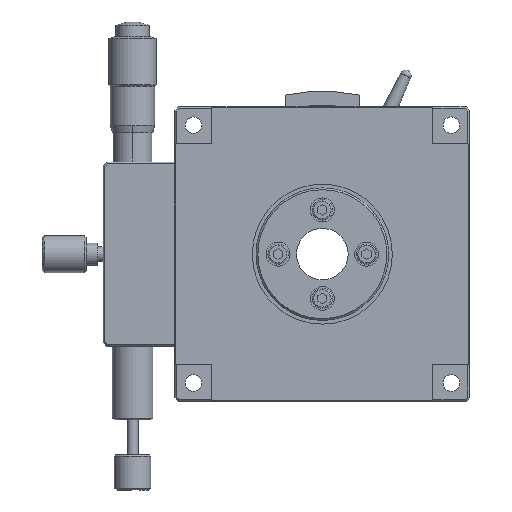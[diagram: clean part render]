
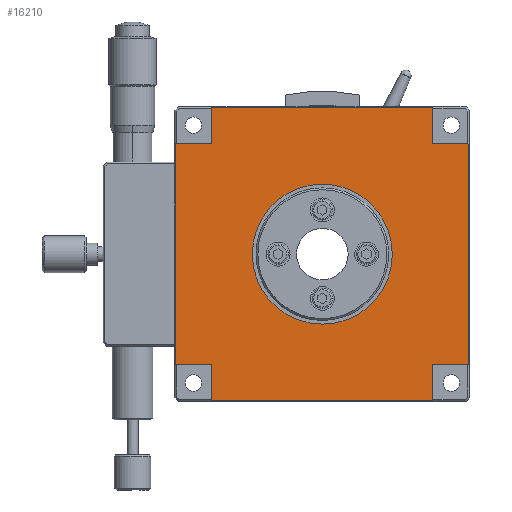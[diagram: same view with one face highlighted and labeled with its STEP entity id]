
A CAD part, front view. The second image highlights one B-rep face of the part: STEP entity #16210.
In plain terms, the highlighted planar face has unit normal (0, -1, 0).
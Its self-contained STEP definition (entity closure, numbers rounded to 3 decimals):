
#80 = CIRCLE ( 'NONE', #19383, 19. ) ;
#93 = ORIENTED_EDGE ( 'NONE', *, *, #14938, .T. ) ;
#172 = VERTEX_POINT ( 'NONE', #2369 ) ;
#541 = CARTESIAN_POINT ( 'NONE',  ( -104.119, 9.186, 60.017 ) ) ;
#594 = ORIENTED_EDGE ( 'NONE', *, *, #10753, .T. ) ;
#882 = VERTEX_POINT ( 'NONE', #7043 ) ;
#957 = VERTEX_POINT ( 'NONE', #15664 ) ;
#1305 = EDGE_CURVE ( 'NONE', #3083, #5632, #10530, .T. ) ;
#1931 = LINE ( 'NONE', #4574, #13923 ) ;
#2129 = ORIENTED_EDGE ( 'NONE', *, *, #13077, .T. ) ;
#2231 = VECTOR ( 'NONE', #26284, 1000. ) ;
#2369 = CARTESIAN_POINT ( 'NONE',  ( -74.119, 9.186, 11.017 ) ) ;
#2413 = VECTOR ( 'NONE', #7898, 1000. ) ;
#2788 = CARTESIAN_POINT ( 'NONE',  ( -44.119, 9.186, 60.017 ) ) ;
#2827 = CIRCLE ( 'NONE', #11218, 19. ) ;
#2949 = CARTESIAN_POINT ( 'NONE',  ( -104.119, 9.186, 60.017 ) ) ;
#2955 = CARTESIAN_POINT ( 'NONE',  ( -104.119, 9.186, 60.017 ) ) ;
#3074 = ORIENTED_EDGE ( 'NONE', *, *, #25325, .T. ) ;
#3083 = VERTEX_POINT ( 'NONE', #20255 ) ;
#3909 = VECTOR ( 'NONE', #8447, 1000. ) ;
#4336 = VERTEX_POINT ( 'NONE', #2788 ) ;
#4502 = ORIENTED_EDGE ( 'NONE', *, *, #26859, .T. ) ;
#4551 = ORIENTED_EDGE ( 'NONE', *, *, #16462, .T. ) ;
#4574 = CARTESIAN_POINT ( 'NONE',  ( -104.119, 9.186, 60.017 ) ) ;
#4586 = VECTOR ( 'NONE', #23694, 1000. ) ;
#4736 = ORIENTED_EDGE ( 'NONE', *, *, #15796, .T. ) ;
#5031 = LINE ( 'NONE', #10514, #2413 ) ;
#5342 = DIRECTION ( 'NONE',  ( 0., 1., 0. ) ) ;
#5632 = VERTEX_POINT ( 'NONE', #14438 ) ;
#5721 = DIRECTION ( 'NONE',  ( 0., 0., 1. ) ) ;
#5724 = DIRECTION ( 'NONE',  ( -1., 0., 0. ) ) ;
#5999 = LINE ( 'NONE', #28153, #9726 ) ;
#6068 = EDGE_LOOP ( 'NONE', ( #15095, #93 ) ) ;
#6392 = VECTOR ( 'NONE', #27286, 1000. ) ;
#6606 = CARTESIAN_POINT ( 'NONE',  ( -113.919, 9.186, 60.017 ) ) ;
#6881 = CARTESIAN_POINT ( 'NONE',  ( -104.119, 9.186, 60.017 ) ) ;
#7043 = CARTESIAN_POINT ( 'NONE',  ( -34.319, 9.186, 0.017 ) ) ;
#7208 = ORIENTED_EDGE ( 'NONE', *, *, #14567, .T. ) ;
#7382 = CARTESIAN_POINT ( 'NONE',  ( -34.319, 9.186, 60.017 ) ) ;
#7898 = DIRECTION ( 'NONE',  ( -1., 0., 0. ) ) ;
#7924 = FACE_OUTER_BOUND ( 'NONE', #27328, .T. ) ;
#8247 = CARTESIAN_POINT ( 'NONE',  ( -104.119, 9.186, 69.817 ) ) ;
#8447 = DIRECTION ( 'NONE',  ( -1., 0., 0. ) ) ;
#8940 = CARTESIAN_POINT ( 'NONE',  ( -113.919, 9.186, 0.017 ) ) ;
#9726 = VECTOR ( 'NONE', #13707, 1000. ) ;
#9858 = CARTESIAN_POINT ( 'NONE',  ( -104.119, 9.186, -9.783 ) ) ;
#10127 = AXIS2_PLACEMENT_3D ( 'NONE', #2949, #12453, #19855 ) ;
#10235 = ORIENTED_EDGE ( 'NONE', *, *, #22239, .T. ) ;
#10495 = VERTEX_POINT ( 'NONE', #23579 ) ;
#10514 = CARTESIAN_POINT ( 'NONE',  ( -104.119, 9.186, 60.017 ) ) ;
#10530 = LINE ( 'NONE', #8247, #11282 ) ;
#10667 = VECTOR ( 'NONE', #26586, 1000. ) ;
#10753 = EDGE_CURVE ( 'NONE', #23057, #4336, #5031, .T. ) ;
#10759 = ORIENTED_EDGE ( 'NONE', *, *, #25481, .T. ) ;
#11203 = ORIENTED_EDGE ( 'NONE', *, *, #1305, .T. ) ;
#11218 = AXIS2_PLACEMENT_3D ( 'NONE', #11717, #11528, #25830 ) ;
#11282 = VECTOR ( 'NONE', #5724, 1000. ) ;
#11528 = DIRECTION ( 'NONE',  ( 0., 1., 0. ) ) ;
#11575 = VERTEX_POINT ( 'NONE', #26808 ) ;
#11687 = ORIENTED_EDGE ( 'NONE', *, *, #23990, .T. ) ;
#11717 = CARTESIAN_POINT ( 'NONE',  ( -74.119, 9.186, 30.017 ) ) ;
#12453 = DIRECTION ( 'NONE',  ( 0., -1., 0. ) ) ;
#13077 = EDGE_CURVE ( 'NONE', #5632, #22084, #16137, .T. ) ;
#13707 = DIRECTION ( 'NONE',  ( 0., 0., 1. ) ) ;
#13790 = VERTEX_POINT ( 'NONE', #31059 ) ;
#13923 = VECTOR ( 'NONE', #31153, 1000. ) ;
#13972 = EDGE_CURVE ( 'NONE', #22084, #957, #23069, .T. ) ;
#14438 = CARTESIAN_POINT ( 'NONE',  ( -104.119, 9.186, 69.817 ) ) ;
#14567 = EDGE_CURVE ( 'NONE', #11575, #10495, #21555, .T. ) ;
#14938 = EDGE_CURVE ( 'NONE', #172, #13790, #80, .T. ) ;
#14997 = CARTESIAN_POINT ( 'NONE',  ( -104.119, 9.186, -9.783 ) ) ;
#15095 = ORIENTED_EDGE ( 'NONE', *, *, #19641, .T. ) ;
#15111 = VECTOR ( 'NONE', #5721, 1000. ) ;
#15168 = CARTESIAN_POINT ( 'NONE',  ( -104.119, 9.186, 0.017 ) ) ;
#15664 = CARTESIAN_POINT ( 'NONE',  ( -113.919, 9.186, 60.017 ) ) ;
#15796 = EDGE_CURVE ( 'NONE', #25814, #26053, #1931, .T. ) ;
#16137 = LINE ( 'NONE', #2955, #21743 ) ;
#16210 = ADVANCED_FACE ( 'NONE', ( #7924, #18058 ), #29394, .T. ) ;
#16462 = EDGE_CURVE ( 'NONE', #10495, #882, #31203, .T. ) ;
#17319 = LINE ( 'NONE', #6606, #4586 ) ;
#17524 = DIRECTION ( 'NONE',  ( 0., 0., 1. ) ) ;
#18058 = FACE_BOUND ( 'NONE', #6068, .T. ) ;
#18935 = CARTESIAN_POINT ( 'NONE',  ( -104.119, 9.186, 0.017 ) ) ;
#19383 = AXIS2_PLACEMENT_3D ( 'NONE', #22265, #5342, #17524 ) ;
#19641 = EDGE_CURVE ( 'NONE', #13790, #172, #2827, .T. ) ;
#19738 = DIRECTION ( 'NONE',  ( 0., 0., -1. ) ) ;
#19855 = DIRECTION ( 'NONE',  ( 0., 0., -1. ) ) ;
#20255 = CARTESIAN_POINT ( 'NONE',  ( -44.119, 9.186, 69.817 ) ) ;
#21420 = LINE ( 'NONE', #15168, #6392 ) ;
#21555 = LINE ( 'NONE', #29659, #15111 ) ;
#21743 = VECTOR ( 'NONE', #19738, 1000. ) ;
#21793 = VECTOR ( 'NONE', #27527, 1000. ) ;
#22084 = VERTEX_POINT ( 'NONE', #6881 ) ;
#22239 = EDGE_CURVE ( 'NONE', #26053, #11575, #26449, .T. ) ;
#22265 = CARTESIAN_POINT ( 'NONE',  ( -74.119, 9.186, 30.017 ) ) ;
#23057 = VERTEX_POINT ( 'NONE', #7382 ) ;
#23069 = LINE ( 'NONE', #541, #3909 ) ;
#23579 = CARTESIAN_POINT ( 'NONE',  ( -44.119, 9.186, 0.017 ) ) ;
#23694 = DIRECTION ( 'NONE',  ( 0., 0., -1. ) ) ;
#23990 = EDGE_CURVE ( 'NONE', #957, #24837, #17319, .T. ) ;
#24837 = VERTEX_POINT ( 'NONE', #8940 ) ;
#25325 = EDGE_CURVE ( 'NONE', #24837, #25814, #21420, .T. ) ;
#25481 = EDGE_CURVE ( 'NONE', #882, #23057, #28209, .T. ) ;
#25814 = VERTEX_POINT ( 'NONE', #18935 ) ;
#25830 = DIRECTION ( 'NONE',  ( 0., 0., 1. ) ) ;
#26053 = VERTEX_POINT ( 'NONE', #14997 ) ;
#26284 = DIRECTION ( 'NONE',  ( 0., 0., 1. ) ) ;
#26449 = LINE ( 'NONE', #9858, #10667 ) ;
#26586 = DIRECTION ( 'NONE',  ( 1., 0., 0. ) ) ;
#26808 = CARTESIAN_POINT ( 'NONE',  ( -44.119, 9.186, -9.783 ) ) ;
#26859 = EDGE_CURVE ( 'NONE', #4336, #3083, #5999, .T. ) ;
#27286 = DIRECTION ( 'NONE',  ( 1., 0., 0. ) ) ;
#27328 = EDGE_LOOP ( 'NONE', ( #11203, #2129, #30664, #11687, #3074, #4736, #10235, #7208, #4551, #10759, #594, #4502 ) ) ;
#27527 = DIRECTION ( 'NONE',  ( 1., 0., 0. ) ) ;
#28153 = CARTESIAN_POINT ( 'NONE',  ( -44.119, 9.186, 60.017 ) ) ;
#28209 = LINE ( 'NONE', #28516, #2231 ) ;
#28516 = CARTESIAN_POINT ( 'NONE',  ( -34.319, 9.186, 60.017 ) ) ;
#29394 = PLANE ( 'NONE',  #10127 ) ;
#29659 = CARTESIAN_POINT ( 'NONE',  ( -44.119, 9.186, 60.017 ) ) ;
#30060 = CARTESIAN_POINT ( 'NONE',  ( -104.119, 9.186, 0.017 ) ) ;
#30664 = ORIENTED_EDGE ( 'NONE', *, *, #13972, .T. ) ;
#31059 = CARTESIAN_POINT ( 'NONE',  ( -74.119, 9.186, 49.017 ) ) ;
#31153 = DIRECTION ( 'NONE',  ( 0., 0., -1. ) ) ;
#31203 = LINE ( 'NONE', #30060, #21793 ) ;
